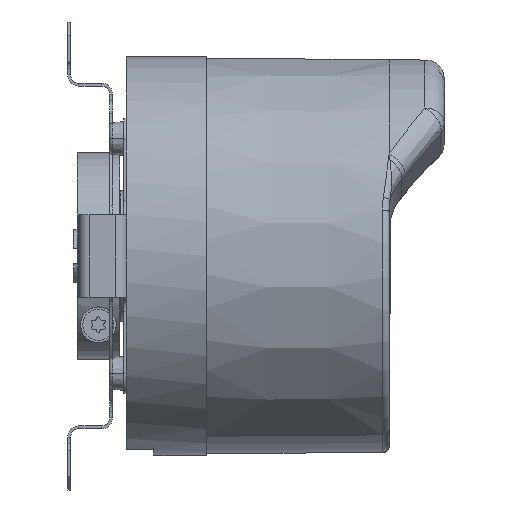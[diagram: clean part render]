
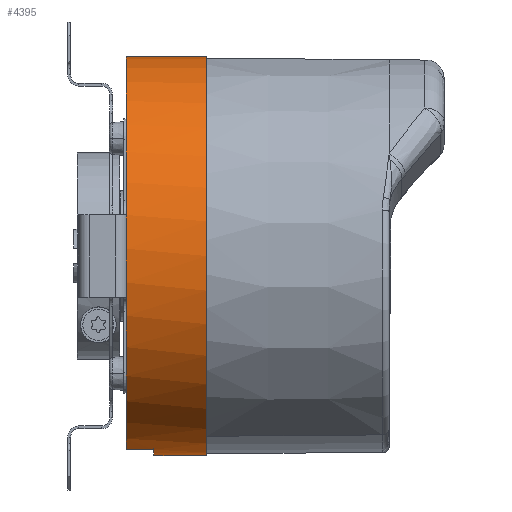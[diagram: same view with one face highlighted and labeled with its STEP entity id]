
A CAD part, front view. The second image highlights one B-rep face of the part: STEP entity #4395.
In plain terms, the highlighted cylindrical face has radius 29 mm (diameter 58 mm), a partial arc.
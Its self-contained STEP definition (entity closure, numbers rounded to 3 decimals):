
#157 = VECTOR ( 'NONE', #18035, 1000. ) ;
#300 = CARTESIAN_POINT ( 'NONE',  ( 8.068, 25.423, -29. ) ) ;
#406 = VERTEX_POINT ( 'NONE', #16275 ) ;
#1216 = CARTESIAN_POINT ( 'NONE',  ( 0.378, 25.423, 0. ) ) ;
#1282 = AXIS2_PLACEMENT_3D ( 'NONE', #1216, #24342, #15038 ) ;
#2396 = EDGE_CURVE ( 'NONE', #22774, #18484, #5188, .T. ) ;
#2938 = CARTESIAN_POINT ( 'NONE',  ( 8.068, 18.423, -28.142 ) ) ;
#3524 = VERTEX_POINT ( 'NONE', #16824 ) ;
#3561 = DIRECTION ( 'NONE',  ( 0., 0., -1. ) ) ;
#3609 = ORIENTED_EDGE ( 'NONE', *, *, #10951, .F. ) ;
#4104 = ORIENTED_EDGE ( 'NONE', *, *, #13804, .F. ) ;
#4395 = ADVANCED_FACE ( 'NONE', ( #14466 ), #12291, .T. ) ;
#4993 = DIRECTION ( 'NONE',  ( 1., 0., 0. ) ) ;
#5188 = CIRCLE ( 'NONE', #9219, 29. ) ;
#5726 = CARTESIAN_POINT ( 'NONE',  ( 8.068, 25.423, 29. ) ) ;
#7994 = VERTEX_POINT ( 'NONE', #12591 ) ;
#8071 = VECTOR ( 'NONE', #12799, 1000. ) ;
#8761 = CARTESIAN_POINT ( 'NONE',  ( 8.068, 25.423, 0. ) ) ;
#9219 = AXIS2_PLACEMENT_3D ( 'NONE', #17039, #9706, #3561 ) ;
#9680 = CIRCLE ( 'NONE', #15723, 29. ) ;
#9704 = CARTESIAN_POINT ( 'NONE',  ( -3.622, 25.423, 0. ) ) ;
#9706 = DIRECTION ( 'NONE',  ( 1., 0., 0. ) ) ;
#9877 = ORIENTED_EDGE ( 'NONE', *, *, #2396, .F. ) ;
#10951 = EDGE_CURVE ( 'NONE', #24759, #22774, #18691, .T. ) ;
#12291 = CYLINDRICAL_SURFACE ( 'NONE', #21560, 29. ) ;
#12591 = CARTESIAN_POINT ( 'NONE',  ( -3.622, 18.423, -28.142 ) ) ;
#12756 = ORIENTED_EDGE ( 'NONE', *, *, #24337, .T. ) ;
#12799 = DIRECTION ( 'NONE',  ( 1., 0., 0. ) ) ;
#13804 = EDGE_CURVE ( 'NONE', #406, #7994, #21939, .T. ) ;
#14122 = CIRCLE ( 'NONE', #1282, 29. ) ;
#14466 = FACE_OUTER_BOUND ( 'NONE', #20773, .T. ) ;
#15038 = DIRECTION ( 'NONE',  ( 0., 0., 1. ) ) ;
#15723 = AXIS2_PLACEMENT_3D ( 'NONE', #9704, #21299, #17400 ) ;
#16046 = ORIENTED_EDGE ( 'NONE', *, *, #24278, .T. ) ;
#16275 = CARTESIAN_POINT ( 'NONE',  ( 0.378, 18.423, -28.142 ) ) ;
#16468 = DIRECTION ( 'NONE',  ( 0., 0., -1. ) ) ;
#16575 = CARTESIAN_POINT ( 'NONE',  ( 8.068, 25.423, 29. ) ) ;
#16824 = CARTESIAN_POINT ( 'NONE',  ( 0.378, 25.423, -29. ) ) ;
#17039 = CARTESIAN_POINT ( 'NONE',  ( 8.068, 25.423, 0. ) ) ;
#17400 = DIRECTION ( 'NONE',  ( 0., 0., -1. ) ) ;
#18035 = DIRECTION ( 'NONE',  ( -1., 0., 0. ) ) ;
#18484 = VERTEX_POINT ( 'NONE', #21832 ) ;
#18691 = LINE ( 'NONE', #16575, #8071 ) ;
#19003 = ORIENTED_EDGE ( 'NONE', *, *, #24224, .T. ) ;
#19040 = DIRECTION ( 'NONE',  ( 1., 0., 0. ) ) ;
#19400 = LINE ( 'NONE', #300, #23753 ) ;
#19954 = CARTESIAN_POINT ( 'NONE',  ( -3.622, 25.423, 29. ) ) ;
#20773 = EDGE_LOOP ( 'NONE', ( #3609, #12756, #4104, #19003, #16046, #9877 ) ) ;
#21299 = DIRECTION ( 'NONE',  ( 1., 0., 0. ) ) ;
#21560 = AXIS2_PLACEMENT_3D ( 'NONE', #8761, #4993, #16468 ) ;
#21832 = CARTESIAN_POINT ( 'NONE',  ( 8.068, 25.423, -29. ) ) ;
#21939 = LINE ( 'NONE', #2938, #157 ) ;
#22774 = VERTEX_POINT ( 'NONE', #5726 ) ;
#23753 = VECTOR ( 'NONE', #19040, 1000. ) ;
#24224 = EDGE_CURVE ( 'NONE', #406, #3524, #14122, .T. ) ;
#24278 = EDGE_CURVE ( 'NONE', #3524, #18484, #19400, .T. ) ;
#24337 = EDGE_CURVE ( 'NONE', #24759, #7994, #9680, .T. ) ;
#24342 = DIRECTION ( 'NONE',  ( 1., 0., 0. ) ) ;
#24759 = VERTEX_POINT ( 'NONE', #19954 ) ;
